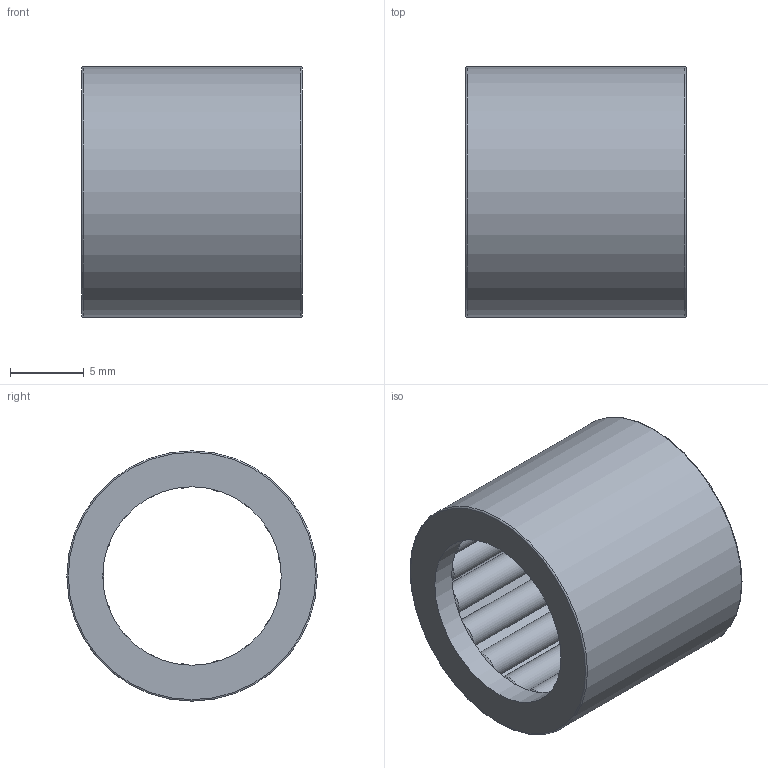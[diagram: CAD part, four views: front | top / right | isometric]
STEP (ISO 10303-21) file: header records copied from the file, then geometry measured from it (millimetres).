
FILE_DESCRIPTION(/* description */ (''),/* implementation_level */ '2;1');
FILE_NAME(/* name */ 'C:\Users\OUREHANEKD\Desktop\Ihlove loziska\F\F--\F12x17x15.stp',/* time_stamp */ '2016-10-11T13:21:19+02:00',/* author */ ('OUREHANEKD'),/* organization */ (''),/* preprocessor_version */ 'ST-DEVELOPER v15.6',/* originating_system */ 'Autodesk Inventor 2015',/* authorisation */ '');
FILE_SCHEMA (('AUTOMOTIVE_DESIGN { 1 0 10303 214 3 1 1 }'));
Length unit declared in the file: millimetre
Products named in the file (3): F12x17x15-01; F12x17x15-ihla; F12x17x15
Assembly tree (18 placements, depth 2):
  F12x17x15
    F12x17x15-01
    F12x17x15-ihla  x17
Bounding box: 15 x 17 x 17 mm (x, y, z)
Volume: 1148.8 mm3; surface area: 3414.1 mm2
Topology: 18 solids, 18 shells, 64 faces, 141 edges, 81 vertices
Faces by surface type: cone 37, cylinder 21, plane 4, torus 2
Full cylindrical faces by diameter (mm): 1.99 x17, 12.12 x2, 15.98 x1, 17 x1
Entity records: 511 total; most frequent: DIRECTION 104, CARTESIAN_POINT 67, AXIS2_PLACEMENT_3D 52, EDGE_LOOP 30, ORIENTED_EDGE 30, PRODUCT_DEFINITION_SHAPE 21, ITEM_DEFINED_TRANSFORMATION 18, CONTEXT_DEPENDENT_SHAPE_REPRESENTATION 18
